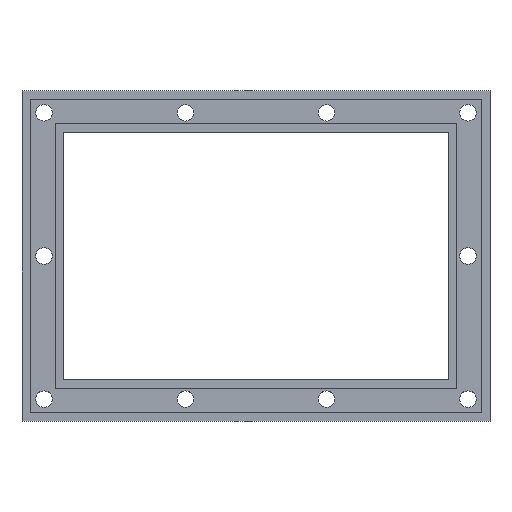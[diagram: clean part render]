
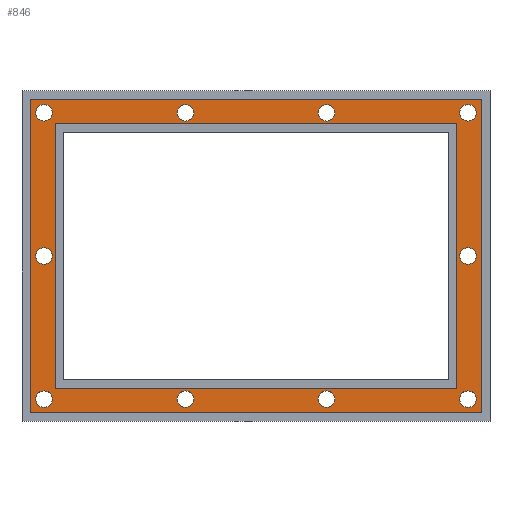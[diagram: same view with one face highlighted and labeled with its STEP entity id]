
A CAD part, top view. The second image highlights one B-rep face of the part: STEP entity #846.
In plain terms, the highlighted planar face has unit normal (0, 0, 1).
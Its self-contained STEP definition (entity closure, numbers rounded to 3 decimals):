
#35=LINE('',#1349,#103);
#39=LINE('',#1357,#107);
#42=LINE('',#1363,#110);
#45=LINE('',#1368,#113);
#58=LINE('',#1396,#126);
#62=LINE('',#1403,#130);
#65=LINE('',#1409,#133);
#67=LINE('',#1412,#135);
#103=VECTOR('',#1129,10.);
#107=VECTOR('',#1135,10.);
#110=VECTOR('',#1140,10.);
#113=VECTOR('',#1145,10.);
#126=VECTOR('',#1166,10.);
#130=VECTOR('',#1172,10.);
#133=VECTOR('',#1177,10.);
#135=VECTOR('',#1181,10.);
#182=FACE_BOUND('',#308,.T.);
#183=FACE_BOUND('',#309,.T.);
#184=FACE_BOUND('',#310,.T.);
#185=FACE_BOUND('',#311,.T.);
#186=FACE_BOUND('',#312,.T.);
#187=FACE_BOUND('',#313,.T.);
#188=FACE_BOUND('',#314,.T.);
#189=FACE_BOUND('',#315,.T.);
#190=FACE_BOUND('',#316,.T.);
#191=FACE_BOUND('',#317,.T.);
#192=FACE_BOUND('',#318,.T.);
#246=FACE_OUTER_BOUND('',#307,.T.);
#307=EDGE_LOOP('',(#707,#708,#709,#710));
#308=EDGE_LOOP('',(#711));
#309=EDGE_LOOP('',(#712));
#310=EDGE_LOOP('',(#713));
#311=EDGE_LOOP('',(#714));
#312=EDGE_LOOP('',(#715));
#313=EDGE_LOOP('',(#716));
#314=EDGE_LOOP('',(#717));
#315=EDGE_LOOP('',(#718));
#316=EDGE_LOOP('',(#719));
#317=EDGE_LOOP('',(#720));
#318=EDGE_LOOP('',(#721,#722,#723,#724));
#342=CIRCLE('',#881,3.);
#346=CIRCLE('',#888,3.);
#350=CIRCLE('',#895,3.);
#354=CIRCLE('',#902,3.);
#358=CIRCLE('',#909,3.);
#362=CIRCLE('',#916,3.);
#366=CIRCLE('',#923,3.);
#370=CIRCLE('',#930,3.);
#374=CIRCLE('',#937,3.);
#378=CIRCLE('',#944,3.);
#382=VERTEX_POINT('',#1226);
#386=VERTEX_POINT('',#1239);
#390=VERTEX_POINT('',#1252);
#394=VERTEX_POINT('',#1265);
#398=VERTEX_POINT('',#1278);
#402=VERTEX_POINT('',#1291);
#406=VERTEX_POINT('',#1304);
#410=VERTEX_POINT('',#1317);
#414=VERTEX_POINT('',#1330);
#418=VERTEX_POINT('',#1343);
#419=VERTEX_POINT('',#1347);
#420=VERTEX_POINT('',#1348);
#423=VERTEX_POINT('',#1356);
#425=VERTEX_POINT('',#1362);
#436=VERTEX_POINT('',#1393);
#437=VERTEX_POINT('',#1395);
#439=VERTEX_POINT('',#1401);
#441=VERTEX_POINT('',#1407);
#456=EDGE_CURVE('',#382,#382,#342,.T.);
#462=EDGE_CURVE('',#386,#386,#346,.T.);
#468=EDGE_CURVE('',#390,#390,#350,.T.);
#474=EDGE_CURVE('',#394,#394,#354,.T.);
#480=EDGE_CURVE('',#398,#398,#358,.T.);
#486=EDGE_CURVE('',#402,#402,#362,.T.);
#492=EDGE_CURVE('',#406,#406,#366,.T.);
#498=EDGE_CURVE('',#410,#410,#370,.T.);
#504=EDGE_CURVE('',#414,#414,#374,.T.);
#510=EDGE_CURVE('',#418,#418,#378,.T.);
#511=EDGE_CURVE('',#419,#420,#35,.T.);
#515=EDGE_CURVE('',#423,#419,#39,.T.);
#518=EDGE_CURVE('',#425,#423,#42,.T.);
#521=EDGE_CURVE('',#420,#425,#45,.T.);
#534=EDGE_CURVE('',#436,#437,#58,.T.);
#538=EDGE_CURVE('',#439,#436,#62,.T.);
#541=EDGE_CURVE('',#441,#439,#65,.T.);
#543=EDGE_CURVE('',#437,#441,#67,.T.);
#707=ORIENTED_EDGE('',*,*,#543,.F.);
#708=ORIENTED_EDGE('',*,*,#534,.F.);
#709=ORIENTED_EDGE('',*,*,#538,.F.);
#710=ORIENTED_EDGE('',*,*,#541,.F.);
#711=ORIENTED_EDGE('',*,*,#456,.T.);
#712=ORIENTED_EDGE('',*,*,#462,.T.);
#713=ORIENTED_EDGE('',*,*,#468,.T.);
#714=ORIENTED_EDGE('',*,*,#474,.T.);
#715=ORIENTED_EDGE('',*,*,#480,.T.);
#716=ORIENTED_EDGE('',*,*,#486,.T.);
#717=ORIENTED_EDGE('',*,*,#492,.T.);
#718=ORIENTED_EDGE('',*,*,#498,.T.);
#719=ORIENTED_EDGE('',*,*,#504,.T.);
#720=ORIENTED_EDGE('',*,*,#510,.T.);
#721=ORIENTED_EDGE('',*,*,#511,.T.);
#722=ORIENTED_EDGE('',*,*,#521,.T.);
#723=ORIENTED_EDGE('',*,*,#518,.T.);
#724=ORIENTED_EDGE('',*,*,#515,.T.);
#796=PLANE('',#956);
#846=ADVANCED_FACE('',(#246,#182,#183,#184,#185,#186,#187,#188,#189,#190,
#191,#192),#796,.F.);
#881=AXIS2_PLACEMENT_3D('',#1228,#981,#982);
#888=AXIS2_PLACEMENT_3D('',#1241,#997,#998);
#895=AXIS2_PLACEMENT_3D('',#1254,#1013,#1014);
#902=AXIS2_PLACEMENT_3D('',#1267,#1029,#1030);
#909=AXIS2_PLACEMENT_3D('',#1280,#1045,#1046);
#916=AXIS2_PLACEMENT_3D('',#1293,#1061,#1062);
#923=AXIS2_PLACEMENT_3D('',#1306,#1077,#1078);
#930=AXIS2_PLACEMENT_3D('',#1319,#1093,#1094);
#937=AXIS2_PLACEMENT_3D('',#1332,#1109,#1110);
#944=AXIS2_PLACEMENT_3D('',#1345,#1125,#1126);
#956=AXIS2_PLACEMENT_3D('',#1413,#1182,#1183);
#981=DIRECTION('center_axis',(0.,0.,-1.));
#982=DIRECTION('ref_axis',(1.,0.,0.));
#997=DIRECTION('center_axis',(0.,0.,-1.));
#998=DIRECTION('ref_axis',(1.,0.,0.));
#1013=DIRECTION('center_axis',(0.,0.,-1.));
#1014=DIRECTION('ref_axis',(1.,0.,0.));
#1029=DIRECTION('center_axis',(0.,0.,-1.));
#1030=DIRECTION('ref_axis',(1.,0.,0.));
#1045=DIRECTION('center_axis',(0.,0.,-1.));
#1046=DIRECTION('ref_axis',(1.,0.,0.));
#1061=DIRECTION('center_axis',(0.,0.,-1.));
#1062=DIRECTION('ref_axis',(-1.,0.,0.));
#1077=DIRECTION('center_axis',(0.,0.,-1.));
#1078=DIRECTION('ref_axis',(-1.,0.,0.));
#1093=DIRECTION('center_axis',(0.,0.,-1.));
#1094=DIRECTION('ref_axis',(-1.,0.,0.));
#1109=DIRECTION('center_axis',(0.,0.,-1.));
#1110=DIRECTION('ref_axis',(-1.,0.,0.));
#1125=DIRECTION('center_axis',(0.,0.,-1.));
#1126=DIRECTION('ref_axis',(-1.,0.,0.));
#1129=DIRECTION('',(0.,-1.,0.));
#1135=DIRECTION('',(1.,0.,0.));
#1140=DIRECTION('',(0.,1.,0.));
#1145=DIRECTION('',(-1.,0.,0.));
#1166=DIRECTION('',(1.,0.,0.));
#1172=DIRECTION('',(0.,1.,0.));
#1177=DIRECTION('',(-1.,0.,0.));
#1181=DIRECTION('',(0.,-1.,0.));
#1182=DIRECTION('center_axis',(0.,0.,-1.));
#1183=DIRECTION('ref_axis',(-1.,0.,0.));
#1226=CARTESIAN_POINT('',(-28.665,-52.,6.));
#1228=CARTESIAN_POINT('Origin',(-25.665,-52.,6.));
#1239=CARTESIAN_POINT('',(-80.,-52.,6.));
#1241=CARTESIAN_POINT('Origin',(-77.,-52.,6.));
#1252=CARTESIAN_POINT('',(-28.665,52.,6.));
#1254=CARTESIAN_POINT('Origin',(-25.665,52.,6.));
#1265=CARTESIAN_POINT('',(-80.,52.,6.));
#1267=CARTESIAN_POINT('Origin',(-77.,52.,6.));
#1278=CARTESIAN_POINT('',(-80.,0.,6.));
#1280=CARTESIAN_POINT('Origin',(-77.,0.,6.));
#1291=CARTESIAN_POINT('',(28.665,-52.,6.));
#1293=CARTESIAN_POINT('Origin',(25.665,-52.,6.));
#1304=CARTESIAN_POINT('',(80.,-52.,6.));
#1306=CARTESIAN_POINT('Origin',(77.,-52.,6.));
#1317=CARTESIAN_POINT('',(28.665,52.,6.));
#1319=CARTESIAN_POINT('Origin',(25.665,52.,6.));
#1330=CARTESIAN_POINT('',(80.,52.,6.));
#1332=CARTESIAN_POINT('Origin',(77.,52.,6.));
#1343=CARTESIAN_POINT('',(80.,0.,6.));
#1345=CARTESIAN_POINT('Origin',(77.,0.,6.));
#1347=CARTESIAN_POINT('',(73.,48.,6.));
#1348=CARTESIAN_POINT('',(73.,-48.,6.));
#1349=CARTESIAN_POINT('',(73.,24.,6.));
#1356=CARTESIAN_POINT('',(-73.,48.,6.));
#1357=CARTESIAN_POINT('',(-36.5,48.,6.));
#1362=CARTESIAN_POINT('',(-73.,-48.,6.));
#1363=CARTESIAN_POINT('',(-73.,-24.,6.));
#1368=CARTESIAN_POINT('',(36.5,-48.,6.));
#1393=CARTESIAN_POINT('',(-82.,57.,6.));
#1395=CARTESIAN_POINT('',(82.,57.,6.));
#1396=CARTESIAN_POINT('',(82.,57.,6.));
#1401=CARTESIAN_POINT('',(-82.,-57.,6.));
#1403=CARTESIAN_POINT('',(-82.,57.,6.));
#1407=CARTESIAN_POINT('',(82.,-57.,6.));
#1409=CARTESIAN_POINT('',(-82.,-57.,6.));
#1412=CARTESIAN_POINT('',(82.,-57.,6.));
#1413=CARTESIAN_POINT('Origin',(0.,0.,6.));
